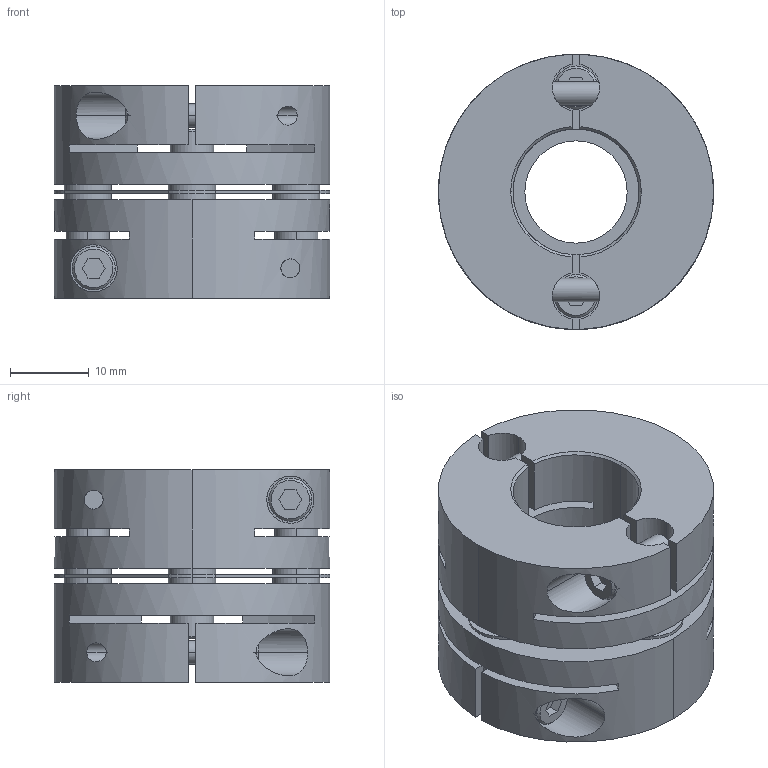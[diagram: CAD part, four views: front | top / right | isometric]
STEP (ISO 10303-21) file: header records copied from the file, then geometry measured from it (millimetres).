
FILE_DESCRIPTION((''),'2;1');
FILE_NAME('LAS-35C-15×16.stp','2011-08-10T16:53:21',(''),(''),'AutoCAD STEP 2000i','AutoCAD 2000i',', , ');
FILE_SCHEMA(('CONFIG_CONTROL_DESIGN'));
Length unit declared in the file: millimetre
Products named in the file (7): LAS-35C-14×14; 忣兜1; LA-3502-D14-1; LA-3502-D14; LA-3502-D08-1; LA-3502-D08; LAS35-ITA
Assembly tree (6 placements, depth 2):
  LAS-35C-14×14
    忣兜1
    LA-3502-D14-1
    LA-3502-D14
    LA-3502-D08-1
    LA-3502-D08
    LAS35-ITA
Bounding box: 35 x 35 x 27 mm (x, y, z)
Volume: 17564.2 mm3; surface area: 11515.8 mm2
Topology: 1 solids, 1 shells, 236 faces, 624 edges, 408 vertices
Faces by surface type: plane 112, cylinder 96, cone 28
Entity records: 8359 total; most frequent: CARTESIAN_POINT 2187, DIRECTION 1274, ORIENTED_EDGE 1248, EDGE_CURVE 624, AXIS2_PLACEMENT_3D 463, VERTEX_POINT 408, VECTOR 348, LINE 348
